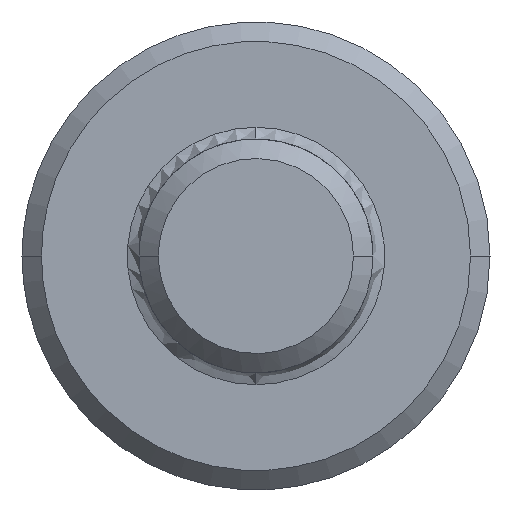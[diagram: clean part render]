
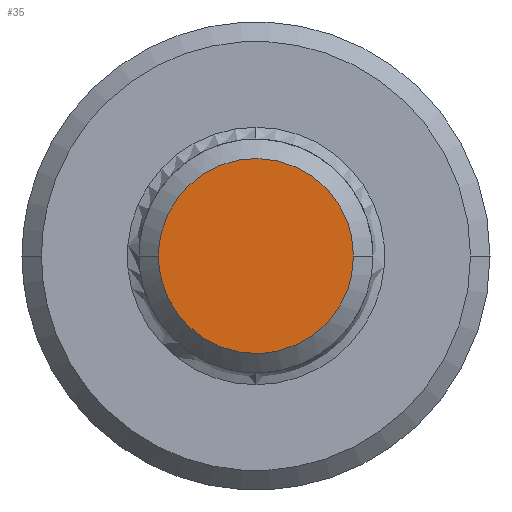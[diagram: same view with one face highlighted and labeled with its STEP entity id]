
A CAD part, left-side view. The second image highlights one B-rep face of the part: STEP entity #35.
In plain terms, the highlighted planar face has unit normal (-1, 0, 0).
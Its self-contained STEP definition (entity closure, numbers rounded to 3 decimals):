
#35=ADVANCED_FACE('',(#57),#628,.T.);
#57=FACE_OUTER_BOUND('',#79,.T.);
#79=EDGE_LOOP('',(#134,#135));
#134=ORIENTED_EDGE('',*,*,#544,.T.);
#135=ORIENTED_EDGE('',*,*,#542,.F.);
#224=PCURVE('',#640,#316);
#226=PCURVE('',#628,#318);
#227=PCURVE('',#628,#319);
#228=PCURVE('',#641,#320);
#316=DEFINITIONAL_REPRESENTATION('',(#421),#1677);
#318=DEFINITIONAL_REPRESENTATION('',(#577),#1677);
#319=DEFINITIONAL_REPRESENTATION('',(#578),#1677);
#320=DEFINITIONAL_REPRESENTATION('',(#424),#1677);
#421=B_SPLINE_CURVE_WITH_KNOTS('',1,(#1474,#1475),.UNSPECIFIED.,.F.,.F.,
(2,2),(-4.142,-1.),.UNSPECIFIED.);
#424=B_SPLINE_CURVE_WITH_KNOTS('',1,(#1495,#1496),.UNSPECIFIED.,.F.,.F.,
(2,2),(5.142,8.283),.UNSPECIFIED.);
#496=SURFACE_CURVE('',#575,(#224,#227),.PCURVE_S1.);
#498=SURFACE_CURVE('',#576,(#226,#228),.PCURVE_S1.);
#542=EDGE_CURVE('',#625,#624,#496,.T.);
#544=EDGE_CURVE('',#625,#624,#498,.T.);
#575=(
BOUNDED_CURVE()
B_SPLINE_CURVE(2,(#1469,#1470,#1471,#1472,#1473),.UNSPECIFIED.,.F.,.F.)
B_SPLINE_CURVE_WITH_KNOTS((3,2,3),(-4.142,-2.571,-1.),
 .UNSPECIFIED.)
CURVE()
GEOMETRIC_REPRESENTATION_ITEM()
RATIONAL_B_SPLINE_CURVE((1.,0.707,1.,0.707,1.))
REPRESENTATION_ITEM('')
);
#576=(
BOUNDED_CURVE()
B_SPLINE_CURVE(2,(#1480,#1481,#1482,#1483,#1484),.UNSPECIFIED.,.F.,.F.)
B_SPLINE_CURVE_WITH_KNOTS((3,2,3),(5.142,6.712,8.283),
 .UNSPECIFIED.)
CURVE()
GEOMETRIC_REPRESENTATION_ITEM()
RATIONAL_B_SPLINE_CURVE((1.,0.707,1.,0.707,1.))
REPRESENTATION_ITEM('')
);
#577=(
BOUNDED_CURVE()
B_SPLINE_CURVE(2,(#1485,#1486,#1487,#1488,#1489),.UNSPECIFIED.,.F.,.F.)
B_SPLINE_CURVE_WITH_KNOTS((3,2,3),(5.142,6.712,8.283),
 .UNSPECIFIED.)
CURVE()
GEOMETRIC_REPRESENTATION_ITEM()
RATIONAL_B_SPLINE_CURVE((1.,0.707,1.,0.707,1.))
REPRESENTATION_ITEM('')
);
#578=(
BOUNDED_CURVE()
B_SPLINE_CURVE(2,(#1490,#1491,#1492,#1493,#1494),.UNSPECIFIED.,.F.,.F.)
B_SPLINE_CURVE_WITH_KNOTS((3,2,3),(-4.142,-2.571,-1.),
 .UNSPECIFIED.)
CURVE()
GEOMETRIC_REPRESENTATION_ITEM()
RATIONAL_B_SPLINE_CURVE((1.,0.707,1.,0.707,1.))
REPRESENTATION_ITEM('')
);
#624=VERTEX_POINT('',#1288);
#625=VERTEX_POINT('',#1289);
#628=PLANE('',#670);
#640=(
BOUNDED_SURFACE()
B_SPLINE_SURFACE(2,1,((#954,#955),(#956,#957),(#958,#959),(#960,#961),(#962,
#963),(#964,#965),(#966,#967),(#968,#969),(#970,#971)),.UNSPECIFIED.,.T.,
 .F.,.F.)
B_SPLINE_SURFACE_WITH_KNOTS((3,2,2,2,3),(2,2),(0.,1.571,3.142,
4.712,6.283),(0.,1.),.UNSPECIFIED.)
GEOMETRIC_REPRESENTATION_ITEM()
RATIONAL_B_SPLINE_SURFACE(((1.,1.),(0.707,0.707),
(1.,1.),(0.707,0.707),(1.,1.),(0.707,
0.707),(1.,1.),(0.707,0.707),(1.,1.)))
REPRESENTATION_ITEM('')
SURFACE()
);
#641=(
BOUNDED_SURFACE()
B_SPLINE_SURFACE(2,1,((#973,#974),(#975,#976),(#977,#978),(#979,#980),(#981,
#982),(#983,#984),(#985,#986),(#987,#988),(#989,#990)),.UNSPECIFIED.,.T.,
 .F.,.F.)
B_SPLINE_SURFACE_WITH_KNOTS((3,2,2,2,3),(2,2),(0.,1.571,3.142,
4.712,6.283),(0.,1.),.UNSPECIFIED.)
GEOMETRIC_REPRESENTATION_ITEM()
RATIONAL_B_SPLINE_SURFACE(((1.,1.),(0.707,0.707),
(1.,1.),(0.707,0.707),(1.,1.),(0.707,
0.707),(1.,1.),(0.707,0.707),(1.,1.)))
REPRESENTATION_ITEM('')
SURFACE()
);
#670=AXIS2_PLACEMENT_3D('',#972,#677,$);
#677=DIRECTION('',(-1.,0.,0.));
#954=CARTESIAN_POINT('',(35.5,285.,30.));
#955=CARTESIAN_POINT('',(39.743,289.243,30.));
#956=CARTESIAN_POINT('',(35.5,285.,30.));
#957=CARTESIAN_POINT('',(39.743,289.243,34.243));
#958=CARTESIAN_POINT('',(35.5,285.,30.));
#959=CARTESIAN_POINT('',(39.743,285.,34.243));
#960=CARTESIAN_POINT('',(35.5,285.,30.));
#961=CARTESIAN_POINT('',(39.743,280.757,34.243));
#962=CARTESIAN_POINT('',(35.5,285.,30.));
#963=CARTESIAN_POINT('',(39.743,280.757,30.));
#964=CARTESIAN_POINT('',(35.5,285.,30.));
#965=CARTESIAN_POINT('',(39.743,280.757,25.757));
#966=CARTESIAN_POINT('',(35.5,285.,30.));
#967=CARTESIAN_POINT('',(39.743,285.,25.757));
#968=CARTESIAN_POINT('',(35.5,285.,30.));
#969=CARTESIAN_POINT('',(39.743,289.243,25.757));
#970=CARTESIAN_POINT('',(35.5,285.,30.));
#971=CARTESIAN_POINT('',(39.743,289.243,30.));
#972=CARTESIAN_POINT('',(38.,287.5,32.5));
#973=CARTESIAN_POINT('',(35.5,285.,30.));
#974=CARTESIAN_POINT('',(39.743,289.243,30.));
#975=CARTESIAN_POINT('',(35.5,285.,30.));
#976=CARTESIAN_POINT('',(39.743,289.243,34.243));
#977=CARTESIAN_POINT('',(35.5,285.,30.));
#978=CARTESIAN_POINT('',(39.743,285.,34.243));
#979=CARTESIAN_POINT('',(35.5,285.,30.));
#980=CARTESIAN_POINT('',(39.743,280.757,34.243));
#981=CARTESIAN_POINT('',(35.5,285.,30.));
#982=CARTESIAN_POINT('',(39.743,280.757,30.));
#983=CARTESIAN_POINT('',(35.5,285.,30.));
#984=CARTESIAN_POINT('',(39.743,280.757,25.757));
#985=CARTESIAN_POINT('',(35.5,285.,30.));
#986=CARTESIAN_POINT('',(39.743,285.,25.757));
#987=CARTESIAN_POINT('',(35.5,285.,30.));
#988=CARTESIAN_POINT('',(39.743,289.243,25.757));
#989=CARTESIAN_POINT('',(35.5,285.,30.));
#990=CARTESIAN_POINT('',(39.743,289.243,30.));
#1288=CARTESIAN_POINT('',(38.,287.5,30.));
#1289=CARTESIAN_POINT('',(38.,282.5,30.));
#1469=CARTESIAN_POINT('',(38.,282.5,30.));
#1470=CARTESIAN_POINT('',(38.,282.5,27.5));
#1471=CARTESIAN_POINT('',(38.,285.,27.5));
#1472=CARTESIAN_POINT('',(38.,287.5,27.5));
#1473=CARTESIAN_POINT('',(38.,287.5,30.));
#1474=CARTESIAN_POINT('',(3.142,0.589));
#1475=CARTESIAN_POINT('',(6.283,0.589));
#1480=CARTESIAN_POINT('',(38.,282.5,30.));
#1481=CARTESIAN_POINT('',(38.,282.5,32.5));
#1482=CARTESIAN_POINT('',(38.,285.,32.5));
#1483=CARTESIAN_POINT('',(38.,287.5,32.5));
#1484=CARTESIAN_POINT('',(38.,287.5,30.));
#1485=CARTESIAN_POINT('',(0.5,1.));
#1486=CARTESIAN_POINT('',(0.,1.));
#1487=CARTESIAN_POINT('',(0.,0.5));
#1488=CARTESIAN_POINT('',(0.,0.));
#1489=CARTESIAN_POINT('',(0.5,0.));
#1490=CARTESIAN_POINT('',(0.5,1.));
#1491=CARTESIAN_POINT('',(1.,1.));
#1492=CARTESIAN_POINT('',(1.,0.5));
#1493=CARTESIAN_POINT('',(1.,0.));
#1494=CARTESIAN_POINT('',(0.5,0.));
#1495=CARTESIAN_POINT('',(3.142,0.589));
#1496=CARTESIAN_POINT('',(0.,0.589));
#1677=(
GEOMETRIC_REPRESENTATION_CONTEXT(2)
PARAMETRIC_REPRESENTATION_CONTEXT()
REPRESENTATION_CONTEXT('pspace','')
);
